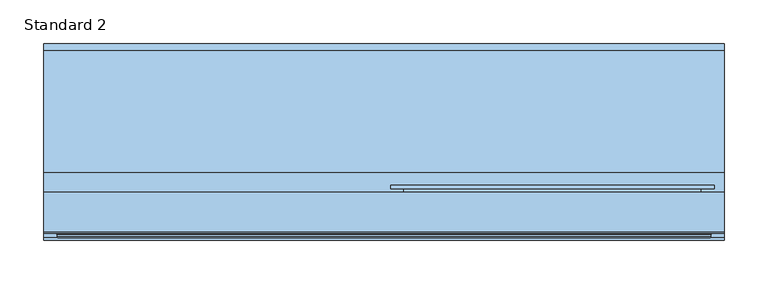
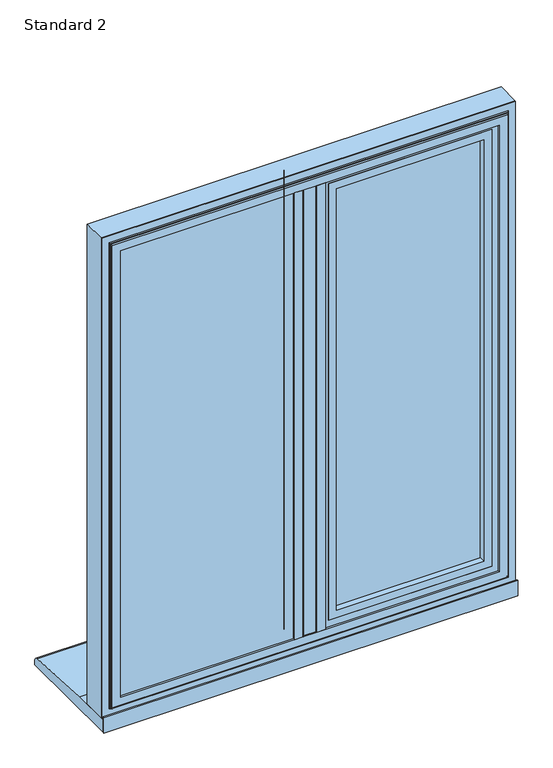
"""IFC4 building model written with IfcOpenShell, lengths in millimetres: window geometry, SMARTS_AlithermHeritage : Standard 2."""

from ifc_helpers import new_model, si_unit, point, frame, frame_2d, origin, place, context, project, spatial, polyline, circle_curve, ellipse_curve, trimmed, segment, composite_curve, outline, extrude, faceted_brep, source, transform, mapped, element, save
from ifc_brep_helpers import plane_surface, cylinder_surface, revolved_surface, advanced_brep


def standard_2_e208d825(model_context):
    return source(origin(), model_context, "Body", "SolidModel", [
        extrude(outline(polyline([(-13.6941456, 95.2798432), (13.6941456, 95.2798432), (13.6941456, 47.279476), (-13.6941456, 47.279476), (-13.6941456, 95.2798432)])), frame((0.0, 0.0, 652.6941456), z_axis=(0.0, 0.0, 1.0), x_axis=(1.0, 0.0, 0.0)), (0.0, 0.0, 1.0), 919.6117089),
        extrude(outline(composite_curve([segment(polyline([(-29.0, 47.279476), (29.0, 47.279476), (29.0, 43.2798432), (13.0, 43.2798432)]), True, "CONTINUOUS"), segment(trimmed(circle_curve(frame_2d((13.0, 44.2798432)), 1.0), [point((13.0, 43.2798432))], [point((12.0, 44.2798432))], False, "CARTESIAN"), True, "CONTINUOUS"), segment(polyline([(12.0, 44.2798432), (12.0, 45.7798432), (-12.0, 45.7798432), (-12.0, 44.2798432)]), True, "CONTINUOUS"), segment(trimmed(circle_curve(frame_2d((-13.0, 44.2798432)), 1.0), [point((-12.0, 44.2798432))], [point((-13.0, 43.2798432))], False, "CARTESIAN"), True, "CONTINUOUS"), segment(polyline([(-13.0, 43.2798432), (-29.0, 43.2798432), (-29.0, 47.279476)]), True, "CONTINUOUS")], self_intersect=False)), frame((0.0, 0.0, 668.0), z_axis=(0.0, 0.0, 1.0), x_axis=(1.0, 0.0, 0.0)), (0.0, 0.0, 1.0), 889.0),
        extrude(outline(polyline([(-367.0, 75.2798432), (-19.0, 75.2798432), (-19.0, 71.2798432), (-367.0, 71.2798432), (-367.0, 75.2798432)])), frame((0.0, 0.0, 658.0), z_axis=(0.0, 0.0, 1.0), x_axis=(1.0, 0.0, 0.0)), (0.0, 0.0, 1.0), 909.0),
        extrude(outline(polyline([(-367.0, 55.2798432), (-19.0, 55.2798432), (-19.0, 51.2798432), (-367.0, 51.2798432), (-367.0, 55.2798432)])), frame((0.0, 0.0, 658.0), z_axis=(0.0, 0.0, 1.0), x_axis=(1.0, 0.0, 0.0)), (0.0, 0.0, 1.0), 909.0),
        extrude(outline(polyline([(1567.0, -367.0), (658.0, -367.0), (658.0, -19.0), (1567.0, -19.0), (1567.0, -367.0)]), holes=[polyline([(1557.0, -29.0), (668.0, -29.0), (668.0, -357.0), (1557.0, -357.0), (1557.0, -29.0)])]), frame((0.0, 55.2798432, 0.0), z_axis=(0.0, 1.0, 0.0), x_axis=(0.0, 0.0, 1.0)), (0.0, 0.0, 1.0), 16.0),
        faceted_brep([(-19.1851151, 95.2798432, 1566.8148849), (-29.0, 78.2798098, 1557.0), (-357.0, 78.2798098, 1557.0), (-366.8148849, 95.2798432, 1566.8148849), (-13.6297324, 78.2798098, 1572.3702676), (-13.6297324, 95.2798432, 1572.3702676), (-372.3702676, 95.2798432, 1572.3702676), (-372.3702676, 78.2798098, 1572.3702676), (-372.3702676, 78.2798098, 652.6297324), (-372.3702676, 95.2798432, 652.6297324), (-13.6297324, 95.2798432, 652.6297324), (-13.6297324, 78.2798098, 652.6297324), (-366.8148849, 95.2798432, 658.1851151), (-19.1851151, 95.2798432, 658.1851151), (-29.0, 78.2798098, 668.0), (-357.0, 78.2798098, 668.0)], [[[0, 1, 2, 3]], [[4, 5, 6, 7]], [[8, 9, 10, 11]], [[5, 10, 9, 6], [3, 12, 13, 0]], [[7, 8, 11, 4], [1, 14, 15, 2]], [[3, 2, 15, 12]], [[7, 6, 9, 8]], [[12, 15, 14, 13]], [[13, 14, 1, 0]], [[11, 10, 5, 4]]]),
        extrude(outline(polyline([(1590.0, 390.0), (1590.0, -390.0), (635.0, -390.0), (635.0, 390.0), (1590.0, 390.0)]), holes=[polyline([(652.7000182, 372.2999818), (652.7000182, -372.2999818), (1572.2999818, -372.2999818), (1572.2999818, 372.2999818), (652.7000182, 372.2999818)])]), frame((0.0, 50.279857, 0.0), z_axis=(0.0, 1.0, 0.0), x_axis=(0.0, 0.0, 1.0)), (0.0, 0.0, 1.0), 44.9999962),
        advanced_brep(
        [(357.0, 43.2798432, 1557.0), (357.0, 47.2798432, 1557.0), (357.0, 47.2798432, 668.0), (357.0, 43.2798432, 668.0), (390.0, 50.279857, 1590.0), (390.0, 48.279857, 1590.0), (390.0, 48.279857, 635.0), (390.0, 50.279857, 635.0), (372.4999818, 43.2798432, 1572.4999818), (-372.4999818, 43.2798432, 1572.4999818), (-372.4999818, 43.2798432, 652.5000182), (372.4999818, 43.2798432, 652.5000182), (-357.0, 43.2798432, 668.0), (-357.0, 43.2798432, 1557.0), (-390.0, 50.279857, 1590.0), (-390.0, 48.279857, 1590.0), (-390.0, 50.279857, 635.0), (372.2999818, 50.279857, 1572.2999818), (-372.2999818, 50.279857, 1572.2999818), (-372.2999818, 50.279857, 652.7000182), (372.2999818, 50.279857, 652.7000182), (-357.0, 47.2798432, 1557.0), (-357.0, 47.2798432, 668.0), (-390.0, 48.279857, 635.0), (-372.2999818, 47.2798432, 1572.2999818), (372.2999818, 47.2798432, 1572.2999818), (372.2999818, 47.2798432, 652.7000182), (374.4999818, 46.779857, 650.5000182), (374.4999818, 45.2798432, 650.5000182), (-374.4999818, 45.2798432, 650.5000182), (-374.4999818, 46.779857, 650.5000182), (374.4999818, 46.779857, 1574.4999818), (374.4999818, 45.2798432, 1574.4999818), (-372.2999818, 47.2798432, 652.7000182), (-374.4999818, 45.2798432, 1574.4999818), (-374.4999818, 46.779857, 1574.4999818), (375.9999818, 48.279857, 1575.9999818), (375.9999818, 48.279857, 649.0000182), (-375.9999818, 48.279857, 649.0000182), (-375.9999818, 48.279857, 1575.9999818)],
        [
            (0, 1),
            (1, 2),
            (2, 3),
            (3, 0),
            (4, 5),
            (5, 6),
            (6, 7),
            (7, 4),
            (8, 9),
            (9, 10),
            (10, 11),
            (11, 8),
            (3, 12),
            (12, 13),
            (13, 0),
            (14, 15),
            (15, 5),
            (4, 14),
            (7, 16),
            (16, 14),
            (17, 18),
            (18, 19),
            (19, 20),
            (20, 17),
            (13, 21),
            (21, 1),
            (2, 22),
            (22, 12),
            (22, 21),
            (6, 23),
            (23, 16),
            (23, 15),
            (24, 18),
            (17, 25),
            (25, 24),
            (20, 26),
            (26, 25),
            (27, 28),
            (28, 29),
            (29, 30),
            (30, 27),
            (31, 32),
            (32, 28),
            (27, 31),
            (19, 33),
            (33, 26),
            (24, 33),
            (29, 34),
            (34, 35),
            (35, 30),
            (34, 32),
            (31, 35),
            (36, 31, ellipse_curve(frame((375.9999818, 46.779857, 1575.9999818), z_axis=(-0.7071067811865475, 0.0, 0.7071067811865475), x_axis=(-0.7071067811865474, 0.0, -0.7071067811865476)), 2.1213203, 1.5)),
            (27, 37, ellipse_curve(frame((375.9999818, 46.779857, 649.0000182), z_axis=(-0.7071067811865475, 0.0, -0.7071067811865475), x_axis=(0.7071067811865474, 0.0, -0.7071067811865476)), 2.1213203, 1.5)),
            (37, 36),
            (30, 38, ellipse_curve(frame((-375.9999818, 46.779857, 649.0000182), z_axis=(-0.7071067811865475, 0.0, 0.7071067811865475), x_axis=(-0.7071067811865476, 0.0, -0.7071067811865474)), 2.1213203, 1.5)),
            (38, 37),
            (35, 39, ellipse_curve(frame((-375.9999818, 46.779857, 1575.9999818), z_axis=(0.7071067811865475, 0.0, 0.7071067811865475), x_axis=(-0.7071067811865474, 0.0, 0.7071067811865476)), 2.1213203, 1.5)),
            (39, 38),
            (36, 39),
            (32, 8, ellipse_curve(frame((372.4999818, 45.2798432, 1572.4999818), z_axis=(0.7071067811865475, 0.0, -0.7071067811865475), x_axis=(0.7071067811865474, 0.0, 0.7071067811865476)), 2.8284271, 2.0)),
            (11, 28, ellipse_curve(frame((372.4999818, 45.2798432, 652.5000182), z_axis=(0.7071067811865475, 0.0, 0.7071067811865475), x_axis=(-0.7071067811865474, 0.0, 0.7071067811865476)), 2.8284271, 2.0)),
            (10, 29, ellipse_curve(frame((-372.4999818, 45.2798432, 652.5000182), z_axis=(0.7071067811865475, 0.0, -0.7071067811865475), x_axis=(0.7071067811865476, 0.0, 0.7071067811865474)), 2.8284271, 2.0)),
            (9, 34, ellipse_curve(frame((-372.4999818, 45.2798432, 1572.4999818), z_axis=(-0.7071067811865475, 0.0, -0.7071067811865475), x_axis=(0.7071067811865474, 0.0, -0.7071067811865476)), 2.8284271, 2.0)),
        ],
        [
            plane_surface(frame((357.0, 47.2798432, 1557.0), z_axis=(-1.0, 0.0, 0.0), x_axis=(0.0, 0.0, -1.0))),
            plane_surface(frame((390.0, 48.279857, 1590.0), z_axis=(1.0, 0.0, 0.0), x_axis=(0.0, 0.0, -1.0))),
            plane_surface(frame((-357.0, 43.2798432, 1557.0), z_axis=(0.0, -1.0, 0.0), x_axis=(1.0, 0.0, 0.0))),
            plane_surface(frame((-390.0, 48.279857, 1590.0), z_axis=(0.0, 0.0, 1.0), x_axis=(1.0, 0.0, 0.0))),
            plane_surface(frame((-390.0, 50.279857, 1590.0), z_axis=(0.0, 1.0, 0.0), x_axis=(1.0, 0.0, 0.0))),
            plane_surface(frame((-357.0, 47.2798432, 1557.0), z_axis=(0.0, 0.0, -1.0), x_axis=(1.0, 0.0, 0.0))),
            plane_surface(frame((357.0, 47.2798432, 668.0), z_axis=(0.0, 0.0, 1.0), x_axis=(-1.0, 0.0, 0.0))),
            plane_surface(frame((-357.0, 47.2798432, 668.0), z_axis=(1.0, 0.0, 0.0), x_axis=(0.0, 0.0, 1.0))),
            plane_surface(frame((390.0, 48.279857, 635.0), z_axis=(0.0, 0.0, -1.0), x_axis=(-1.0, 0.0, 0.0))),
            plane_surface(frame((-390.0, 48.279857, 635.0), z_axis=(-1.0, 0.0, 0.0), x_axis=(0.0, 0.0, 1.0))),
            plane_surface(frame((-372.2999818, 50.279857, 1572.2999818), z_axis=(0.0, 0.0, -1.0), x_axis=(1.0, 0.0, 0.0))),
            plane_surface(frame((372.2999818, 50.279857, 1572.2999818), z_axis=(-1.0, 0.0, 0.0), x_axis=(0.0, 0.0, -1.0))),
            plane_surface(frame((374.4999818, 45.2798432, 650.5000182), z_axis=(0.0, 0.0, -1.0), x_axis=(-1.0, 0.0, 0.0))),
            plane_surface(frame((374.4999818, 45.2798432, 1574.4999818), z_axis=(1.0, 0.0, 0.0), x_axis=(0.0, 0.0, -1.0))),
            plane_surface(frame((372.2999818, 50.279857, 652.7000182), z_axis=(0.0, 0.0, 1.0), x_axis=(-1.0, 0.0, 0.0))),
            plane_surface(frame((-372.2999818, 50.279857, 652.7000182), z_axis=(1.0, 0.0, 0.0), x_axis=(0.0, 0.0, 1.0))),
            plane_surface(frame((-374.4999818, 45.2798432, 650.5000182), z_axis=(-1.0, 0.0, 0.0), x_axis=(0.0, 0.0, 1.0))),
            plane_surface(frame((-372.2999818, 47.2798432, 1572.2999818), z_axis=(0.0, 1.0, 0.0), x_axis=(1.0, 0.0, 0.0))),
            plane_surface(frame((-374.4999818, 45.2798432, 1574.4999818), z_axis=(0.0, 0.0, 1.0), x_axis=(1.0, 0.0, 0.0))),
            revolved_surface(polyline([(374.4999818, 46.779857, 647.5000182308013), (374.4999818, 46.779857, 1577.4999817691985)]), (375.9999818, 46.779857, 1590.0), (0.0, 0.0, -1.0)),
            revolved_surface(polyline([(-377.4999817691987, 46.779857, 650.5000182), (377.49998176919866, 46.779857, 650.5000182)]), (390.0, 46.779857, 649.0000182), (-1.0, 0.0, 0.0)),
            revolved_surface(polyline([(-374.4999818, 46.779857, 1577.4999817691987), (-374.4999818, 46.779857, 647.5000182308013)]), (-375.9999818, 46.779857, 635.0), (0.0, 0.0, 1.0)),
            revolved_surface(polyline([(377.4999817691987, 46.779857, 1574.4999818), (-377.49998176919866, 46.779857, 1574.4999818)]), (-390.0, 46.779857, 1575.9999818), (1.0, 0.0, 0.0)),
            plane_surface(frame((-375.9999818, 48.279857, 1575.9999818), z_axis=(0.0, -1.0, 0.0), x_axis=(1.0, 0.0, 0.0))),
            cylinder_surface(frame((372.4999818, 45.2798432, 1590.0), z_axis=(0.0, 0.0, 1.0), x_axis=(-1.0, 0.0, 0.0)), 2.0),
            cylinder_surface(frame((390.0, 45.2798432, 652.5000182), z_axis=(1.0, 0.0, 0.0), x_axis=(0.0, 0.0, 1.0)), 2.0),
            cylinder_surface(frame((-372.4999818, 45.2798432, 635.0), z_axis=(0.0, 0.0, -1.0), x_axis=(1.0, 0.0, 0.0)), 2.0),
            cylinder_surface(frame((-390.0, 45.2798432, 1572.4999818), z_axis=(-1.0, 0.0, 0.0), x_axis=(0.0, 0.0, -1.0)), 2.0),
        ],
        [
            (0, [[1, 2, 3, 4]]),
            (1, [[5, 6, 7, 8]]),
            (2, [[9, 10, 11, 12], [13, 14, 15, -4]]),
            (3, [[16, 17, -5, 18]]),
            (4, [[19, 20, -18, -8], [21, 22, 23, 24]]),
            (5, [[25, 26, -1, -15]]),
            (6, [[-3, 27, 28, -13]]),
            (7, [[-28, 29, -25, -14]]),
            (8, [[-7, 30, 31, -19]]),
            (9, [[-31, 32, -16, -20]]),
            (10, [[33, -21, 34, 35]]),
            (11, [[-34, -24, 36, 37]]),
            (12, [[38, 39, 40, 41]]),
            (13, [[42, 43, -38, 44]]),
            (14, [[-36, -23, 45, 46]]),
            (15, [[-45, -22, -33, 47]]),
            (16, [[-40, 48, 49, 50]]),
            (17, [[-46, -47, -35, -37], [-26, -29, -27, -2]]),
            (18, [[-49, 51, -42, 52]]),
            (19, [[53, -44, 54, 55]]),
            (20, [[-54, -41, 56, 57]]),
            (21, [[-56, -50, 58, 59]]),
            (22, [[-58, -52, -53, 60]]),
            (23, [[-17, -32, -30, -6], [-57, -59, -60, -55]]),
            (24, [[61, -12, 62, -43]]),
            (25, [[-62, -11, 63, -39]]),
            (26, [[-63, -10, 64, -48]]),
            (27, [[-64, -9, -61, -51]]),
        ],
    ),
        extrude(outline(polyline([(42.5, 89.2798432), (343.5, 89.2798432), (343.5, 85.2798432), (42.5, 85.2798432), (42.5, 89.2798432)])), frame((0.0, 0.0, 681.5), z_axis=(0.0, 0.0, 1.0), x_axis=(1.0, 0.0, 0.0)), (0.0, 0.0, 1.0), 862.0),
        extrude(outline(polyline([(42.5, 69.2798432), (343.5, 69.2798432), (343.5, 65.2798432), (42.5, 65.2798432), (42.5, 69.2798432)])), frame((0.0, 0.0, 681.5), z_axis=(0.0, 0.0, 1.0), x_axis=(1.0, 0.0, 0.0)), (0.0, 0.0, 1.0), 862.0),
        extrude(outline(polyline([(1543.5, 42.5), (681.5, 42.5), (681.5, 343.5), (1543.5, 343.5), (1543.5, 42.5)]), holes=[polyline([(1533.5, 333.5), (691.5, 333.5), (691.5, 52.5), (1533.5, 52.5), (1533.5, 333.5)])]), frame((0.0, 69.2798432, 0.0), z_axis=(0.0, 1.0, 0.0), x_axis=(0.0, 0.0, 1.0)), (0.0, 0.0, 1.0), 16.0),
        extrude(outline(polyline([(1547.0052956, 38.9947044), (677.9947044, 38.9947044), (677.9947044, 347.0052956), (1547.0052956, 347.0052956), (1547.0052956, 38.9947044)]), holes=[polyline([(1532.0, 332.0), (693.0, 332.0), (693.0, 54.0), (1532.0, 54.0), (1532.0, 332.0)])]), frame((0.0, 51.2798432, 0.0), z_axis=(0.0, 1.0, 0.0), x_axis=(0.0, 0.0, 1.0)), (0.0, 0.0, 1.0), 11.3),
        extrude(outline(polyline([(662.3548042, 23.3548042), (662.3548042, 362.6451958), (1562.6451958, 362.6451958), (1562.6451958, 23.3548042), (662.3548042, 23.3548042)]), holes=[polyline([(1547.0, 39.0), (1547.0, 347.0), (678.0, 347.0), (678.0, 39.0), (1547.0, 39.0)])]), frame((0.0, 51.2798432, 0.0), z_axis=(0.0, 1.0, 0.0), x_axis=(0.0, 0.0, 1.0)), (0.0, 0.0, 1.0), 41.6),
        advanced_brep(
        [(54.0, 98.0798432, 1532.0), (54.0, 92.8798432, 1532.0), (54.0, 92.8798432, 693.0), (54.0, 98.0798432, 693.0), (332.0, 92.8798432, 693.0), (332.0, 98.0798432, 693.0), (332.0, 92.8798432, 1532.0), (332.0, 98.0798432, 1532.0), (7.8, 99.2798432, 1578.2), (7.8, 103.2798432, 1578.2), (7.8, 103.2798432, 646.8), (7.8, 99.2798432, 646.8), (378.2, 103.2798432, 646.8), (378.2, 99.2798432, 646.8), (378.2, 103.2798432, 1578.2), (378.2, 99.2798432, 1578.2), (22.8532343, 99.2798432, 1563.1467657), (363.1467657, 99.2798432, 1563.1467657), (363.1467657, 99.2798432, 661.8532343), (22.8532343, 99.2798432, 661.8532343), (36.8, 103.2798432, 675.8), (349.2, 103.2798432, 675.8), (349.2, 103.2798432, 1549.2), (36.8, 103.2798432, 1549.2), (22.8532343, 92.8798432, 1563.1467657), (22.8532343, 92.8798432, 661.8532343), (363.1467657, 92.8798432, 661.8532343), (363.1467657, 92.8798432, 1563.1467657), (38.8, 101.2798432, 1547.2), (38.8, 100.0798432, 1547.2), (38.8, 100.0798432, 677.8), (38.8, 101.2798432, 677.8), (40.8, 98.0798432, 1545.2), (40.8, 98.0798432, 679.8), (347.2, 100.0798432, 677.8), (347.2, 101.2798432, 677.8), (345.2, 98.0798432, 679.8), (347.2, 100.0798432, 1547.2), (347.2, 101.2798432, 1547.2), (345.2, 98.0798432, 1545.2)],
        [
            (0, 1),
            (1, 2),
            (2, 3),
            (3, 0),
            (2, 4),
            (4, 5),
            (5, 3),
            (4, 6),
            (6, 7),
            (7, 5),
            (6, 1),
            (0, 7),
            (8, 9),
            (9, 10),
            (10, 11),
            (11, 8),
            (10, 12),
            (12, 13),
            (13, 11),
            (12, 14),
            (14, 15),
            (15, 13),
            (15, 8),
            (16, 17),
            (17, 18),
            (18, 19),
            (19, 16),
            (14, 9),
            (20, 21),
            (21, 22),
            (22, 23),
            (23, 20),
            (24, 16),
            (19, 25),
            (25, 24),
            (18, 26),
            (26, 25),
            (17, 27),
            (27, 26),
            (27, 24),
            (28, 29),
            (29, 30),
            (30, 31),
            (31, 28),
            (29, 32, ellipse_curve(frame((40.8, 100.0798432, 1545.2), z_axis=(0.7071067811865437, 0.0, 0.7071067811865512), x_axis=(0.7071067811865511, 0.0, -0.7071067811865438)), 2.8284271, 2.0)),
            (32, 33),
            (33, 30, ellipse_curve(frame((40.8, 100.0798432, 679.8), z_axis=(0.7071067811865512, 0.0, -0.7071067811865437), x_axis=(-0.7071067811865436, 0.0, -0.7071067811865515)), 2.8284271, 2.0)),
            (30, 34),
            (34, 35),
            (35, 31),
            (33, 36),
            (36, 34, ellipse_curve(frame((345.2, 100.0798432, 679.8), z_axis=(0.7071067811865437, 0.0, 0.7071067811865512), x_axis=(0.7071067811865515, 0.0, -0.7071067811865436)), 2.8284271, 2.0)),
            (34, 37),
            (37, 38),
            (38, 35),
            (36, 39),
            (39, 37, ellipse_curve(frame((345.2, 100.0798432, 1545.2), z_axis=(-0.7071067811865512, 0.0, 0.7071067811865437), x_axis=(0.7071067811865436, 0.0, 0.7071067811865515)), 2.8284271, 2.0)),
            (32, 39),
            (37, 29),
            (28, 38),
            (23, 28, ellipse_curve(frame((36.8, 101.2798432, 1549.2), z_axis=(-0.7071067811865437, 0.0, -0.7071067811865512), x_axis=(-0.7071067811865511, 0.0, 0.7071067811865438)), 2.8284271, 2.0)),
            (31, 20, ellipse_curve(frame((36.8, 101.2798432, 675.8), z_axis=(-0.7071067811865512, 0.0, 0.7071067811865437), x_axis=(0.7071067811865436, 0.0, 0.7071067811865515)), 2.8284271, 2.0)),
            (35, 21, ellipse_curve(frame((349.2, 101.2798432, 675.8), z_axis=(-0.7071067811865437, 0.0, -0.7071067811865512), x_axis=(-0.7071067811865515, 0.0, 0.7071067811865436)), 2.8284271, 2.0)),
            (38, 22, ellipse_curve(frame((349.2, 101.2798432, 1549.2), z_axis=(0.7071067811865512, 0.0, -0.7071067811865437), x_axis=(-0.7071067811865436, 0.0, -0.7071067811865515)), 2.8284271, 2.0)),
        ],
        [
            plane_surface(frame((54.0, 92.8798432, 1532.0), z_axis=(1.0, 0.0, 0.0), x_axis=(0.0, 0.0, -1.0))),
            plane_surface(frame((54.0, 92.8798432, 693.0), z_axis=(0.0, 0.0, 1.0), x_axis=(1.0, 0.0, 0.0))),
            plane_surface(frame((332.0, 92.8798432, 693.0), z_axis=(-1.0, 0.0, 0.0), x_axis=(0.0, 0.0, 1.0))),
            plane_surface(frame((332.0, 92.8798432, 1532.0), z_axis=(0.0, 0.0, -1.0), x_axis=(-1.0, 0.0, 0.0))),
            plane_surface(frame((7.8, 103.2798432, 1578.2), z_axis=(-1.0, 0.0, 0.0), x_axis=(0.0, 0.0, -1.0))),
            plane_surface(frame((7.8, 103.2798432, 646.8), z_axis=(0.0, 0.0, -1.0), x_axis=(1.0, 0.0, 0.0))),
            plane_surface(frame((378.2, 103.2798432, 646.8), z_axis=(1.0, 0.0, 0.0), x_axis=(0.0, 0.0, 1.0))),
            plane_surface(frame((378.2, 99.2798432, 1578.2), z_axis=(0.0, -1.0, 0.0), x_axis=(-1.0, 0.0, 0.0))),
            plane_surface(frame((378.2, 103.2798432, 1578.2), z_axis=(0.0, 0.0, 1.0), x_axis=(-1.0, 0.0, 0.0))),
            plane_surface(frame((349.2, 103.2798432, 1549.2), z_axis=(0.0, 1.0, 0.0), x_axis=(-1.0, 0.0, 0.0))),
            plane_surface(frame((22.8532343, 99.2798432, 1563.1467657), z_axis=(-1.0, 0.0, 0.0), x_axis=(0.0, 0.0, -1.0))),
            plane_surface(frame((22.8532343, 99.2798432, 661.8532343), z_axis=(0.0, 0.0, -1.0), x_axis=(1.0, 0.0, 0.0))),
            plane_surface(frame((363.1467657, 99.2798432, 661.8532343), z_axis=(1.0, 0.0, 0.0), x_axis=(0.0, 0.0, 1.0))),
            plane_surface(frame((363.1467657, 92.8798432, 1563.1467657), z_axis=(0.0, -1.0, 0.0), x_axis=(-1.0, 0.0, 0.0))),
            plane_surface(frame((363.1467657, 99.2798432, 1563.1467657), z_axis=(0.0, 0.0, 1.0), x_axis=(-1.0, 0.0, 0.0))),
            plane_surface(frame((38.8, 100.0798432, 1547.2), z_axis=(1.0, 0.0, 0.0), x_axis=(0.0, 0.0, -1.0))),
            revolved_surface(polyline([(38.8, 100.0798432, 677.8), (38.8, 100.0798432, 1547.2)]), (40.8, 100.0798432, 1557.0), (0.0, 0.0, -1.0)),
            plane_surface(frame((38.8, 100.0798432, 677.8), z_axis=(0.0, 0.0, 1.0), x_axis=(1.0, 0.0, 0.0))),
            revolved_surface(polyline([(347.2, 100.0798432, 677.8), (38.8, 100.0798432, 677.8)]), (29.0, 100.0798432, 679.8), (1.0, 0.0, 0.0)),
            plane_surface(frame((347.2, 100.0798432, 677.8), z_axis=(-1.0, 0.0, 0.0), x_axis=(0.0, 0.0, 1.0))),
            revolved_surface(polyline([(347.2, 100.0798432, 1547.2), (347.2, 100.0798432, 677.8)]), (345.2, 100.0798432, 668.0), (0.0, 0.0, 1.0)),
            plane_surface(frame((332.0, 98.0798432, 1532.0), z_axis=(0.0, 1.0, 0.0), x_axis=(-1.0, 0.0, 0.0))),
            plane_surface(frame((347.2, 100.0798432, 1547.2), z_axis=(0.0, 0.0, -1.0), x_axis=(-1.0, 0.0, 0.0))),
            revolved_surface(polyline([(38.80000000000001, 100.0798432, 1547.2), (347.2, 100.0798432, 1547.2)]), (357.0, 100.0798432, 1545.2), (-1.0, 0.0, 0.0)),
            cylinder_surface(frame((36.8, 101.2798432, 1557.0), z_axis=(0.0, 0.0, 1.0), x_axis=(-1.0, 0.0, 0.0)), 2.0),
            cylinder_surface(frame((29.0, 101.2798432, 675.8), z_axis=(-1.0, 0.0, 0.0), x_axis=(0.0, 0.0, -1.0)), 2.0),
            cylinder_surface(frame((349.2, 101.2798432, 668.0), z_axis=(0.0, 0.0, -1.0), x_axis=(1.0, 0.0, 0.0)), 2.0),
            cylinder_surface(frame((357.0, 101.2798432, 1549.2), z_axis=(1.0, 0.0, 0.0), x_axis=(0.0, 0.0, 1.0)), 2.0),
        ],
        [
            (0, [[1, 2, 3, 4]]),
            (1, [[-3, 5, 6, 7]]),
            (2, [[-6, 8, 9, 10]]),
            (3, [[-9, 11, -1, 12]]),
            (4, [[13, 14, 15, 16]]),
            (5, [[-15, 17, 18, 19]]),
            (6, [[-18, 20, 21, 22]]),
            (7, [[-19, -22, 23, -16], [24, 25, 26, 27]]),
            (8, [[-21, 28, -13, -23]]),
            (9, [[-28, -20, -17, -14], [29, 30, 31, 32]]),
            (10, [[33, -27, 34, 35]]),
            (11, [[-34, -26, 36, 37]]),
            (12, [[-36, -25, 38, 39]]),
            (13, [[-37, -39, 40, -35], [-11, -8, -5, -2]]),
            (14, [[-38, -24, -33, -40]]),
            (15, [[41, 42, 43, 44]]),
            (16, [[45, 46, 47, -42]]),
            (17, [[-43, 48, 49, 50]]),
            (18, [[-47, 51, 52, -48]]),
            (19, [[-49, 53, 54, 55]]),
            (20, [[-52, 56, 57, -53]]),
            (21, [[58, -56, -51, -46], [-7, -10, -12, -4]]),
            (22, [[-54, 59, -41, 60]]),
            (23, [[-57, -58, -45, -59]]),
            (24, [[61, -44, 62, -32]]),
            (25, [[-62, -50, 63, -29]]),
            (26, [[-63, -55, 64, -30]]),
            (27, [[-64, -60, -61, -31]]),
        ],
    ),
        extrude(outline(polyline([(390.0, 43.2798432), (390.0, 40.7798432), (-390.0, 40.7798432), (-390.0, 43.2798432), (390.0, 43.2798432)])), frame((0.0, 0.0, 610.0), z_axis=(0.0, 0.0, 1.0), x_axis=(1.0, 0.0, 0.0)), (0.0, 0.0, 1.0), 31.0),
        extrude(outline(composite_curve([segment(polyline([(265.7798432, 610.0), (43.2798432, 610.0), (43.2798432, 635.0), (118.7798432, 635.0), (258.4770891, 625.9276664)]), True, "CONTINUOUS"), segment(trimmed(circle_curve(frame_2d((257.7798432, 617.9581088)), 8.0), [point((258.4770891, 625.9276664))], [point((265.7798432, 617.9581088))], False, "CARTESIAN"), True, "CONTINUOUS"), segment(polyline([(265.7798432, 617.9581088), (265.7798432, 610.0)]), True, "CONTINUOUS")], self_intersect=False)), frame((-390.0, 0.0, 0.0), z_axis=(1.0, 0.0, 0.0), x_axis=(0.0, 1.0, 0.0)), (0.0, 0.0, 1.0), 780.0),
    ])


if __name__ == "__main__":
    model = new_model("IFC4")
    model_context = context("Model", 3, world=origin())
    ifc_project = project(units=[si_unit("LENGTHUNIT", "METRE", prefix="MILLI")], contexts=[model_context])
    site = spatial("IfcSite", under=ifc_project)
    building = spatial("IfcBuilding", under=site)
    placement = place(None, origin())
    standard_2_shape = standard_2_e208d825(model_context)
    element("IfcWindow", 1, ObjectType="SMARTS_AlithermHeritage : Standard 2", at=placement, inside=building, context=model_context, shape_type="MappedRepresentation", body=[
        mapped(standard_2_shape, transform((0.0, 0.0, 0.0), x_axis=(1.0, 0.0, 0.0), y_axis=(0.0, 1.0, 0.0), z_axis=(0.0, 0.0, 1.0))),
    ])
    save(model, "model.ifc")
